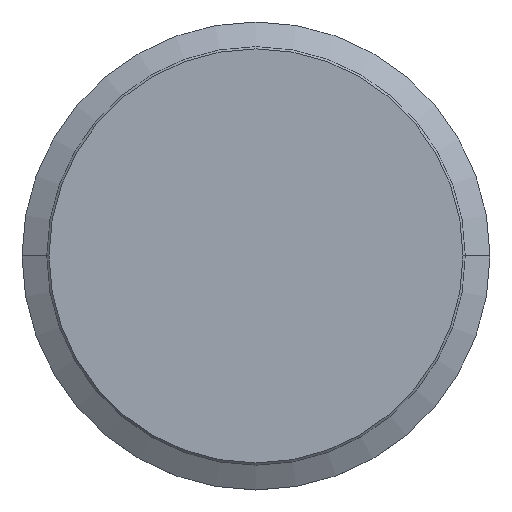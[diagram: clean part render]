
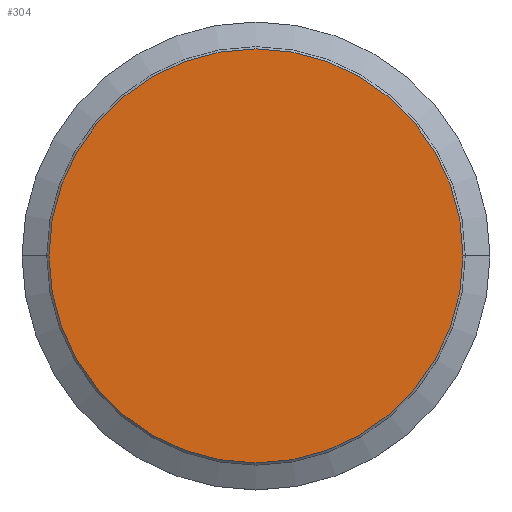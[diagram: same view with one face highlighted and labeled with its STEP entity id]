
A CAD part, top view. The second image highlights one B-rep face of the part: STEP entity #304.
In plain terms, the highlighted planar face has unit normal (0, 0, 1).
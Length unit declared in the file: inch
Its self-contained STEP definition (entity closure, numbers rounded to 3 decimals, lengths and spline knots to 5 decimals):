
#88=CARTESIAN_POINT('',(0.,0.,0.));
#89=DIRECTION('',(0.,0.,1.));
#90=DIRECTION('',(-1.,0.,0.));
#91=AXIS2_PLACEMENT_3D('',#88,#89,#90);
#93=CARTESIAN_POINT('',(0.,0.,0.));
#94=DIRECTION('',(0.,0.,1.));
#95=DIRECTION('',(1.,0.,0.));
#96=AXIS2_PLACEMENT_3D('',#93,#94,#95);
#138=CARTESIAN_POINT('',(-1.88,0.,0.));
#139=CARTESIAN_POINT('',(1.88,0.,0.));
#140=VERTEX_POINT('',#138);
#141=VERTEX_POINT('',#139);
#294=CARTESIAN_POINT('',(0.,0.,0.));
#295=DIRECTION('',(0.,0.,-1.));
#296=DIRECTION('',(-1.,0.,0.));
#297=AXIS2_PLACEMENT_3D('',#294,#295,#296);
#298=PLANE('',#297);
#300=ORIENTED_EDGE('',*,*,#299,.F.);
#301=ORIENTED_EDGE('',*,*,#284,.F.);
#302=EDGE_LOOP('',(#300,#301));
#303=FACE_OUTER_BOUND('',#302,.F.);
#304=ADVANCED_FACE('',(#303),#298,.F.);
#92=CIRCLE('',#91,1.88);
#97=CIRCLE('',#96,1.88);
#284=EDGE_CURVE('',#141,#140,#97,.T.);
#299=EDGE_CURVE('',#140,#141,#92,.T.);
